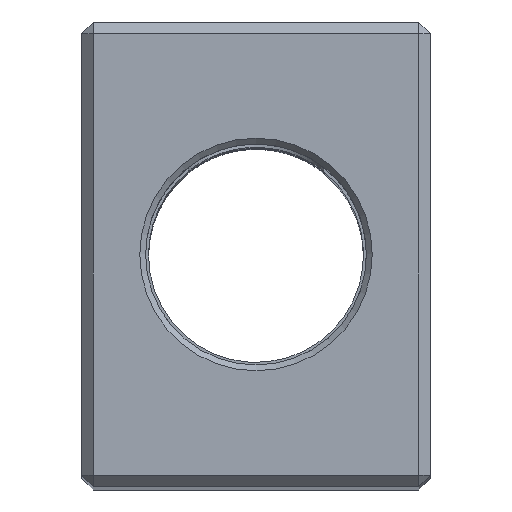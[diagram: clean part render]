
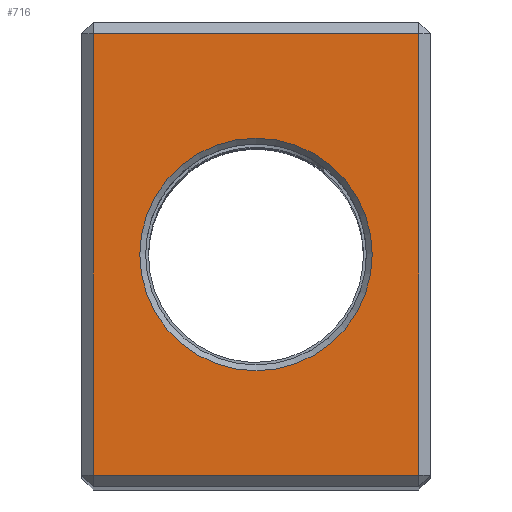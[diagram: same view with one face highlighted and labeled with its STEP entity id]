
A CAD part, top view. The second image highlights one B-rep face of the part: STEP entity #716.
In plain terms, the highlighted planar face has unit normal (0, 0, 1).
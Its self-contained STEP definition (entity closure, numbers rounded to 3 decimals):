
#35=FACE_BOUND('',#123,.T.);
#44=PLANE('',#791);
#75=FACE_OUTER_BOUND('',#122,.T.);
#122=EDGE_LOOP('',(#525,#526,#527,#528));
#123=EDGE_LOOP('',(#529));
#178=LINE('',#1152,#245);
#179=LINE('',#1154,#246);
#180=LINE('',#1156,#247);
#181=LINE('',#1157,#248);
#245=VECTOR('',#890,10.);
#246=VECTOR('',#891,10.);
#247=VECTOR('',#892,10.);
#248=VECTOR('',#893,10.);
#309=CIRCLE('',#788,10.);
#348=VERTEX_POINT('',#1142);
#351=VERTEX_POINT('',#1150);
#352=VERTEX_POINT('',#1151);
#353=VERTEX_POINT('',#1153);
#354=VERTEX_POINT('',#1155);
#411=EDGE_CURVE('',#348,#348,#309,.T.);
#415=EDGE_CURVE('',#351,#352,#178,.T.);
#416=EDGE_CURVE('',#353,#351,#179,.T.);
#417=EDGE_CURVE('',#354,#353,#180,.T.);
#418=EDGE_CURVE('',#352,#354,#181,.T.);
#525=ORIENTED_EDGE('',*,*,#415,.F.);
#526=ORIENTED_EDGE('',*,*,#416,.F.);
#527=ORIENTED_EDGE('',*,*,#417,.F.);
#528=ORIENTED_EDGE('',*,*,#418,.F.);
#529=ORIENTED_EDGE('',*,*,#411,.F.);
#716=ADVANCED_FACE('',(#75,#35),#44,.T.);
#788=AXIS2_PLACEMENT_3D('',#1143,#881,#882);
#791=AXIS2_PLACEMENT_3D('',#1149,#888,#889);
#881=DIRECTION('center_axis',(0.,0.,1.));
#882=DIRECTION('ref_axis',(-1.,0.,0.));
#888=DIRECTION('center_axis',(0.,0.,1.));
#889=DIRECTION('ref_axis',(1.,0.,0.));
#890=DIRECTION('',(0.,1.,0.));
#891=DIRECTION('',(-1.,0.,0.));
#892=DIRECTION('',(0.,-1.,0.));
#893=DIRECTION('',(1.,0.,0.));
#1142=CARTESIAN_POINT('',(10.,0.,75.5));
#1143=CARTESIAN_POINT('Origin',(0.,0.,75.5));
#1149=CARTESIAN_POINT('Origin',(0.,0.,75.5));
#1150=CARTESIAN_POINT('',(-14.,-19.,75.5));
#1151=CARTESIAN_POINT('',(-14.,19.,75.5));
#1152=CARTESIAN_POINT('',(-14.,10.,75.5));
#1153=CARTESIAN_POINT('',(14.,-19.,75.5));
#1154=CARTESIAN_POINT('',(-7.5,-19.,75.5));
#1155=CARTESIAN_POINT('',(14.,19.,75.5));
#1156=CARTESIAN_POINT('',(14.,-10.,75.5));
#1157=CARTESIAN_POINT('',(7.5,19.,75.5));
